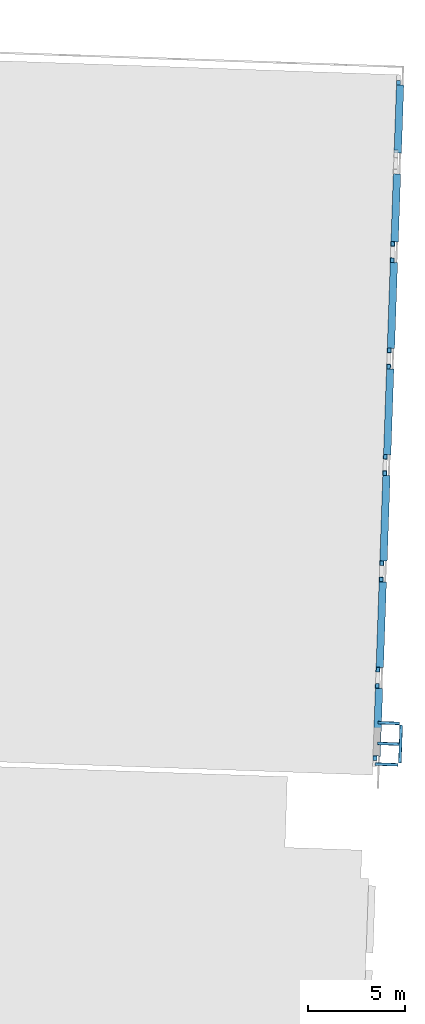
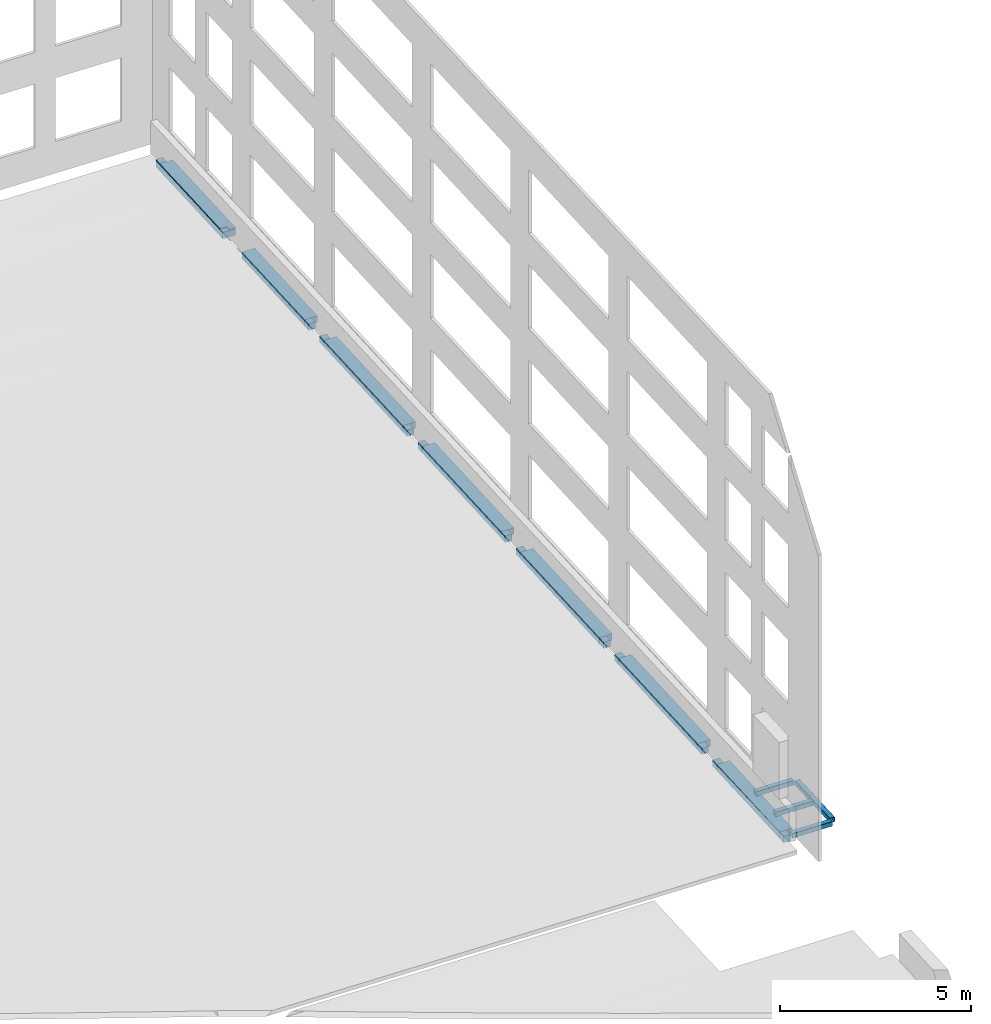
# One storey, part 1 of 7: 20 beams.
"""IFC2X3 building model written with IfcOpenShell, lengths in feet."""

from ifc_helpers import new_model, entity, si_unit, converted_unit, derived_unit, direction, frame, frame_2d, origin, origin_2d_with_axis, place, context, subcontext, project, spatial, polyline, circle_curve, parameter, trimmed, segment, composite_curve, rectangle, outline, extrude, faceted_brep, material, element, save


model = new_model("IFC2X3")

# Units and contexts
model_context = context("Model", 3, precision=0.0001, world=origin(), true_north=direction((0.999390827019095, 0.0348994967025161)))
body_context = subcontext(model_context, "Body", "Model", "MODEL_VIEW")
ifc_project = project(units=[converted_unit("LENGTHUNIT", "FOOT", entity("IfcRatioMeasure", 0.3048), si_unit("LENGTHUNIT", "METRE"), dimensions=[1, 0, 0, 0, 0, 0, 0]), converted_unit("AREAUNIT", "SQUARE FOOT", entity("IfcRatioMeasure", 0.09290304), si_unit("AREAUNIT", "SQUARE_METRE"), dimensions=[2, 0, 0, 0, 0, 0, 0]), converted_unit("VOLUMEUNIT", "CUBIC FOOT", entity("IfcRatioMeasure", 0.028316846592), si_unit("VOLUMEUNIT", "CUBIC_METRE"), dimensions=[3, 0, 0, 0, 0, 0, 0]), converted_unit("PLANEANGLEUNIT", "DEGREE", entity("IfcRatioMeasure", 0.0174532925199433), si_unit("PLANEANGLEUNIT", "RADIAN"), dimensions=[0, 0, 0, 0, 0, 0, 0]), si_unit("MASSUNIT", "GRAM", prefix="KILO"), si_unit("TIMEUNIT", "SECOND"), si_unit("FREQUENCYUNIT", "HERTZ"), si_unit("THERMODYNAMICTEMPERATUREUNIT", "DEGREE_CELSIUS"), derived_unit("THERMALTRANSMITTANCEUNIT", [(si_unit("MASSUNIT", "GRAM", prefix="KILO"), 1), (si_unit("THERMODYNAMICTEMPERATUREUNIT", "KELVIN"), -1), (si_unit("TIMEUNIT", "SECOND"), -3)]), derived_unit("VOLUMETRICFLOWRATEUNIT", [(si_unit("LENGTHUNIT", "METRE"), 3), (si_unit("TIMEUNIT", "SECOND"), -1)]), si_unit("ELECTRICCURRENTUNIT", "AMPERE"), si_unit("ELECTRICVOLTAGEUNIT", "VOLT"), si_unit("POWERUNIT", "WATT"), si_unit("FORCEUNIT", "NEWTON"), si_unit("ILLUMINANCEUNIT", "LUX"), si_unit("LUMINOUSFLUXUNIT", "LUMEN"), si_unit("LUMINOUSINTENSITYUNIT", "CANDELA"), derived_unit("USERDEFINED", [(si_unit("MASSUNIT", "GRAM", prefix="KILO"), -1), (si_unit("LENGTHUNIT", "METRE"), -2), (si_unit("TIMEUNIT", "SECOND"), 3), (si_unit("LUMINOUSFLUXUNIT", "LUMEN"), 1)]), derived_unit("LINEARVELOCITYUNIT", [(si_unit("LENGTHUNIT", "METRE"), 1), (si_unit("TIMEUNIT", "SECOND"), -1)]), si_unit("PRESSUREUNIT", "PASCAL"), derived_unit("USERDEFINED", [(si_unit("LENGTHUNIT", "METRE"), -2), (si_unit("MASSUNIT", "GRAM", prefix="KILO"), 1), (si_unit("TIMEUNIT", "SECOND"), -2)])], contexts=[model_context])

# Site, building, storey
site_placement = place(None, frame((892.518771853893, 322.38689265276, 0.00393700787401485), z_axis=(0.0, 0.0, 1.0), x_axis=(0.0348994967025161, 0.999390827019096, 0.0)))
site = spatial("IfcSite", under=ifc_project, at=site_placement, Name="Default", CompositionType="ELEMENT")
building_placement = place(site_placement, origin())
building = spatial("IfcBuilding", under=site, at=building_placement, CompositionType="ELEMENT")
storey_placement = place(building_placement, frame((0.0, 0.0, 567.0)))
storey = spatial("IfcBuildingStorey", under=building, at=storey_placement, Name="Existing Garage - 2nd Level", CompositionType="ELEMENT", Elevation=567.0)

# Beams
ifc_material_1 = material(Name="Metal - Steel - ASTM A500 - Grade B - Rectangular and Square")
beam_1_placement = place(storey_placement, frame((113.343963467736, 231.847286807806, 0.666666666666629), z_axis=(0.0, 0.0, 1.0), x_axis=(-1.0, 0.0, 0.0)))
element("IfcBeam", 1, at=beam_1_placement, inside=storey, material=ifc_material_1, Name="05_HSS-Hollow Structural Section:HSS6x6x5/16", ObjectType="05_HSS-Hollow Structural Section:HSS6x6x5/16", context=body_context, shape_type="SweptSolid", body=[
    extrude(outline(composite_curve([segment(trimmed(circle_curve(frame_2d((-0.201500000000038, -0.20150000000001), x_axis=(1.0, 0.0)), 0.0485), [parameter(180.0)], [parameter(270.0)], True, "PARAMETER"), True, "CONTINUOUS"), segment(polyline([(-0.201500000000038, -0.25), (0.201499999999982, -0.25)]), True, "CONTINUOUS"), segment(trimmed(circle_curve(frame_2d((0.201499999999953, -0.20150000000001), x_axis=(1.0, 0.0)), 0.0485), [parameter(270.0)], [parameter(1.52666624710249e-13)], True, "PARAMETER"), True, "CONTINUOUS"), segment(polyline([(0.249999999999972, -0.20150000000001), (0.249999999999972, 0.20150000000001)]), True, "CONTINUOUS"), segment(trimmed(circle_curve(frame_2d((0.201499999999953, 0.20150000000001), x_axis=(1.0, 0.0)), 0.0485), [parameter(360.0)], [parameter(89.9999999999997)], True, "PARAMETER"), True, "CONTINUOUS"), segment(polyline([(0.201499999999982, 0.25), (-0.201500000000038, 0.25)]), True, "CONTINUOUS"), segment(trimmed(circle_curve(frame_2d((-0.201500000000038, 0.20150000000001), x_axis=(1.0, 0.0)), 0.0485), [parameter(90.0000000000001)], [parameter(180.0)], True, "PARAMETER"), True, "CONTINUOUS"), segment(polyline([(-0.250000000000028, 0.20150000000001), (-0.250000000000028, -0.20150000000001)]), True, "CONTINUOUS")], self_intersect=False), holes=[composite_curve([segment(polyline([(0.201499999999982, -0.225749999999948), (-0.201500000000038, -0.225749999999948)]), True, "CONTINUOUS"), segment(trimmed(circle_curve(frame_2d((-0.201500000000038, -0.20150000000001), x_axis=(1.0, 0.0)), 0.02425), [parameter(180.0)], [parameter(270.0)], True, "PARAMETER"), False, "CONTINUOUS"), segment(polyline([(-0.225750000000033, -0.20150000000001), (-0.225750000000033, 0.20150000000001)]), True, "CONTINUOUS"), segment(trimmed(circle_curve(frame_2d((-0.201500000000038, 0.20150000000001), x_axis=(1.0, 0.0)), 0.02425), [parameter(90.0000000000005)], [parameter(180.0)], True, "PARAMETER"), False, "CONTINUOUS"), segment(polyline([(-0.201500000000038, 0.225750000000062), (0.201499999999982, 0.225750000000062)]), True, "CONTINUOUS"), segment(trimmed(circle_curve(frame_2d((0.201499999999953, 0.20150000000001), x_axis=(1.0, 0.0)), 0.02425), [parameter(0.0)], [parameter(90.0000000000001)], True, "PARAMETER"), False, "CONTINUOUS"), segment(polyline([(0.225749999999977, 0.20150000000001), (0.225749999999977, -0.20150000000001)]), True, "CONTINUOUS"), segment(trimmed(circle_curve(frame_2d((0.201499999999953, -0.20150000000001), x_axis=(1.0, 0.0)), 0.02425), [parameter(270.0)], [parameter(4.07110999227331e-13)], True, "PARAMETER"), False, "CONTINUOUS")], self_intersect=False)]), frame((0.291666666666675, 0.0, -0.25), z_axis=(1.0, 0.0, 0.0), x_axis=(0.0, -1.0, 0.0)), (0.0, 0.0, 1.0), 6.41667039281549),
])
ifc_material_2 = material(Name="Concrete - Cast-in-Place Concrete")
beam_2_placement = place(storey_placement, frame((105.927293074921, 236.097286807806, 0.0)))
element("IfcBeam", 2, at=beam_2_placement, inside=storey, material=ifc_material_2, Name="Concrete-Rectangular Beam:8\" x 8\"w", ObjectType="Concrete-Rectangular Beam:8\" x 8\"w", context=body_context, shape_type="SweptSolid", body=[
    extrude(rectangle(XDim=0.666666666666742, YDim=0.666666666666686, at=origin_2d_with_axis()), frame((1.0, 0.0, -0.333333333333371), z_axis=(1.0, 0.0, 0.0), x_axis=(0.0, 0.0, -1.0)), (0.0, 0.0, 1.0), 0.7500000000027),
])
beam_3_placement = place(storey_placement, frame((107.677293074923, 235.80562014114, 0.0)))
element("IfcBeam", 3, at=beam_3_placement, inside=storey, material=ifc_material_2, Name="Concrete-Rectangular Beam:8\" x 15\"w", ObjectType="Concrete-Rectangular Beam:8\" x 15\"w", context=body_context, shape_type="SweptSolid", body=[
    extrude(rectangle(XDim=0.666666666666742, YDim=1.25, at=frame_2d((0.0, 5.6843418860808e-14), x_axis=(1.0, 0.0))), frame((0.0, 0.0, -0.333333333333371), z_axis=(1.0, 0.0, 0.0), x_axis=(0.0, 0.0, -1.0)), (0.0, 0.0, 1.0), 11.4999999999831),
])
beam_4_placement = place(storey_placement, frame((119.177293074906, 236.097286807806, 0.0)))
element("IfcBeam", 4, at=beam_4_placement, inside=storey, material=ifc_material_2, Name="Concrete-Rectangular Beam:8\" x 8\"w", ObjectType="Concrete-Rectangular Beam:8\" x 8\"w", context=body_context, shape_type="SweptSolid", body=[
    extrude(rectangle(XDim=0.666666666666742, YDim=0.666666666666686, at=frame_2d((0.0, 2.8421709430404e-14), x_axis=(1.0, 0.0))), frame((2.74999999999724, 0.0, -0.333333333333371), z_axis=(1.0, 0.0, 0.0), x_axis=(0.0, 0.0, -1.0)), (0.0, 0.0, 1.0), 0.7500000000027),
    extrude(rectangle(XDim=0.666666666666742, YDim=0.666666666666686, at=frame_2d((-2.8421709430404e-14, 0.0), x_axis=(0.0, 1.0))), frame((0.0, 0.0, -0.333333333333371), z_axis=(1.0, 0.0, 0.0), x_axis=(0.0, -1.0, 0.0)), (0.0, 0.0, 1.0), 0.749999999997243),
])
beam_5_placement = place(storey_placement, frame((122.677293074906, 235.80562014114, 0.0)))
element("IfcBeam", 5, at=beam_5_placement, inside=storey, material=ifc_material_2, Name="Concrete-Rectangular Beam:8\" x 15\"w", ObjectType="Concrete-Rectangular Beam:8\" x 15\"w", context=body_context, shape_type="SweptSolid", body=[
    extrude(rectangle(XDim=0.666666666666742, YDim=1.25, at=frame_2d((0.0, 5.6843418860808e-14), x_axis=(1.0, 0.0))), frame((0.0, 0.0, -0.333333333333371), z_axis=(1.0, 0.0, 0.0), x_axis=(0.0, 0.0, -1.0)), (0.0, 0.0, 1.0), 14.5000000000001),
])
beam_6_placement = place(storey_placement, frame((137.177293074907, 236.097286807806, 0.0)))
element("IfcBeam", 6, at=beam_6_placement, inside=storey, material=ifc_material_2, Name="Concrete-Rectangular Beam:8\" x 8\"w", ObjectType="Concrete-Rectangular Beam:8\" x 8\"w", context=body_context, shape_type="SweptSolid", body=[
    extrude(rectangle(XDim=0.666666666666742, YDim=0.666666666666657, at=frame_2d((0.0, -1.4210854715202e-14), x_axis=(1.0, 0.0))), frame((2.7499999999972, 0.0, -0.333333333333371), z_axis=(1.0, 0.0, 0.0), x_axis=(0.0, 0.0, -1.0)), (0.0, 0.0, 1.0), 0.750000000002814),
    extrude(rectangle(XDim=0.666666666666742, YDim=0.666666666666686, at=frame_2d((0.0, 0.0), x_axis=(0.0, 1.0))), frame((0.0, 0.0, -0.333333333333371), z_axis=(1.0, 0.0, 0.0), x_axis=(0.0, -1.0, 0.0)), (0.0, 0.0, 1.0), 0.749999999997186),
])
beam_7_placement = place(storey_placement, frame((140.677293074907, 235.80562014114, 0.0)))
element("IfcBeam", 7, at=beam_7_placement, inside=storey, material=ifc_material_2, Name="Concrete-Rectangular Beam:8\" x 15\"w", ObjectType="Concrete-Rectangular Beam:8\" x 15\"w", context=body_context, shape_type="SweptSolid", body=[
    extrude(rectangle(XDim=0.666666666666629, YDim=1.25, at=frame_2d((0.0, 7.105427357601e-14), x_axis=(1.0, 0.0))), frame((0.0, 0.0, -0.333333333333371), z_axis=(1.0, 0.0, 0.0), x_axis=(0.0, 0.0, -1.0)), (0.0, 0.0, 1.0), 14.5),
])
beam_8_placement = place(storey_placement, frame((154.510626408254, 236.097286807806, 0.0)))
element("IfcBeam", 8, at=beam_8_placement, inside=storey, material=ifc_material_2, Name="Concrete-Rectangular Beam:8\" x 8\"w", ObjectType="Concrete-Rectangular Beam:8\" x 8\"w", context=body_context, shape_type="SweptSolid", body=[
    extrude(rectangle(XDim=0.666666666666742, YDim=0.666666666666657, at=frame_2d((0.0, 1.4210854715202e-14), x_axis=(1.0, 0.0))), frame((3.41666666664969, 0.0, -0.333333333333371), z_axis=(1.0, 0.0, 0.0), x_axis=(0.0, 0.0, -1.0)), (0.0, 0.0, 1.0), 0.750000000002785),
    extrude(rectangle(XDim=0.666666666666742, YDim=0.666666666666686, at=frame_2d((0.0, -2.8421709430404e-14), x_axis=(1.0, 0.0))), frame((0.666666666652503, 0.0, -0.333333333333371), z_axis=(1.0, 0.0, 0.0), x_axis=(0.0, 0.0, -1.0)), (0.0, 0.0, 1.0), 0.749999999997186),
])
beam_9_placement = place(storey_placement, frame((158.677293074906, 235.805620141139, 0.0)))
element("IfcBeam", 9, at=beam_9_placement, inside=storey, material=ifc_material_2, Name="Concrete-Rectangular Beam:8\" x 15\"w", ObjectType="Concrete-Rectangular Beam:8\" x 15\"w", context=body_context, shape_type="SweptSolid", body=[
    extrude(rectangle(XDim=0.666666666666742, YDim=1.25000000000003, at=frame_2d((0.0, 4.2632564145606e-14), x_axis=(1.0, 0.0))), frame((0.0, 0.0, -0.333333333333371), z_axis=(1.0, 0.0, 0.0), x_axis=(0.0, 0.0, -1.0)), (0.0, 0.0, 1.0), 14.5),
])
beam_10_placement = place(storey_placement, frame((173.177293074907, 236.097286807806, 0.0)))
element("IfcBeam", 10, at=beam_10_placement, inside=storey, material=ifc_material_2, Name="Concrete-Rectangular Beam:8\" x 8\"w", ObjectType="Concrete-Rectangular Beam:8\" x 8\"w", context=body_context, shape_type="SweptSolid", body=[
    extrude(rectangle(XDim=0.666666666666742, YDim=0.666666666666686, at=origin_2d_with_axis()), frame((2.74999999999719, 0.0, -0.333333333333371), z_axis=(1.0, 0.0, 0.0), x_axis=(0.0, 0.0, -1.0)), (0.0, 0.0, 1.0), 0.750000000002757),
    extrude(rectangle(XDim=0.666666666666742, YDim=0.666666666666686, at=frame_2d((0.0, 0.0), x_axis=(0.0, 1.0))), frame((0.0, 0.0, -0.333333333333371), z_axis=(1.0, 0.0, 0.0), x_axis=(0.0, -1.0, 0.0)), (0.0, 0.0, 1.0), 0.749999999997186),
])
beam_11_placement = place(storey_placement, frame((176.677293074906, 235.805620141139, 0.0)))
element("IfcBeam", 11, at=beam_11_placement, inside=storey, material=ifc_material_2, Name="Concrete-Rectangular Beam:8\" x 15\"w", ObjectType="Concrete-Rectangular Beam:8\" x 15\"w", context=body_context, shape_type="SweptSolid", body=[
    extrude(rectangle(XDim=0.666666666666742, YDim=1.25000000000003, at=frame_2d((0.0, 7.105427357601e-14), x_axis=(1.0, 0.0))), frame((0.0, 0.0, -0.333333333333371), z_axis=(1.0, 0.0, 0.0), x_axis=(0.0, 0.0, -1.0)), (0.0, 0.0, 1.0), 14.5),
])
beam_12_placement = place(storey_placement, frame((191.177293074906, 236.097286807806, 0.0)))
element("IfcBeam", 12, at=beam_12_placement, inside=storey, material=ifc_material_2, Name="Concrete-Rectangular Beam:8\" x 8\"w", ObjectType="Concrete-Rectangular Beam:8\" x 8\"w", context=body_context, shape_type="SweptSolid", body=[
    extrude(rectangle(XDim=0.666666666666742, YDim=0.666666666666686, at=origin_2d_with_axis()), frame((2.7499999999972, 0.0, -0.333333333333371), z_axis=(1.0, 0.0, 0.0), x_axis=(0.0, 0.0, -1.0)), (0.0, 0.0, 1.0), 0.750000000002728),
    extrude(rectangle(XDim=0.666666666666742, YDim=0.666666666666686, at=frame_2d((0.0, 0.0), x_axis=(0.0, 1.0))), frame((0.0, 0.0, -0.333333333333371), z_axis=(1.0, 0.0, 0.0), x_axis=(0.0, -1.0, 0.0)), (0.0, 0.0, 1.0), 0.749999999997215),
])
beam_13_placement = place(storey_placement, frame((194.677293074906, 235.805620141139, 0.0)))
element("IfcBeam", 13, at=beam_13_placement, inside=storey, material=ifc_material_2, Name="Concrete-Rectangular Beam:8\" x 15\"w", ObjectType="Concrete-Rectangular Beam:8\" x 15\"w", context=body_context, shape_type="SweptSolid", body=[
    extrude(rectangle(XDim=0.666666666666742, YDim=1.25, at=frame_2d((0.0, 2.8421709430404e-14), x_axis=(1.0, 0.0))), frame((0.0, 0.0, -0.333333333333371), z_axis=(1.0, 0.0, 0.0), x_axis=(0.0, 0.0, -1.0)), (0.0, 0.0, 1.0), 11.4999999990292),
])
beam_14_placement = place(storey_placement, frame((209.677293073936, 235.805620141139, -0.125)))
element("IfcBeam", 14, at=beam_14_placement, inside=storey, material=ifc_material_2, Name="Concrete-Rectangular Beam:8\" x 15\"w", ObjectType="Concrete-Rectangular Beam:8\" x 15\"w", context=body_context, shape_type="SweptSolid", body=[
    extrude(rectangle(XDim=0.666666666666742, YDim=1.25000000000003, at=frame_2d((0.0, 4.2632564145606e-14), x_axis=(1.0, 0.0))), frame((0.0, 0.0, -0.333333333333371), z_axis=(1.0, 0.0, 0.0), x_axis=(0.0, 0.0, -1.0)), (0.0, 0.0, 1.0), 11.4999999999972),
])
beam_15_placement = place(storey_placement, frame((221.177293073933, 236.097286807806, -0.125)))
element("IfcBeam", 15, at=beam_15_placement, inside=storey, material=ifc_material_2, Name="Concrete-Rectangular Beam:8\" x 8\"w", ObjectType="Concrete-Rectangular Beam:8\" x 8\"w", context=body_context, shape_type="SweptSolid", body=[
    extrude(rectangle(XDim=0.666666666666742, YDim=0.666666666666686, at=origin_2d_with_axis()), frame((0.0, 0.0, -0.333333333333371), z_axis=(1.0, 0.0, 0.0), x_axis=(0.0, 0.0, -1.0)), (0.0, 0.0, 1.0), 0.750000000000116),
])
beam_16_placement = place(storey_placement, frame((209.677293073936, 235.180620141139, -0.125)))
element("IfcBeam", 16, at=beam_16_placement, inside=storey, material=ifc_material_2, Name="Concrete-Rectangular Beam:8\" x 15\"w", ObjectType="Concrete-Rectangular Beam:8\" x 15\"w", context=body_context, shape_type="Brep", body=[
    faceted_brep([(0.0, 0.0, 0.125), (0.0, 0.583333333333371, 0.125), (0.0, 0.5833333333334, 0.0), (0.0, 0.0, 0.0), (11.4999999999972, 0.0, 0.125), (11.4999999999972, 0.583333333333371, 0.125), (11.4999999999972, 1.25000000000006, 0.125), (0.500000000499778, 1.25000000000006, 0.125), (0.50000000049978, 0.583333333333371, 0.125), (11.4999999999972, 0.0, 0.0), (11.4999999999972, 1.25000000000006, 0.0), (0.500000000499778, 1.25000000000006, 0.0), (0.50000000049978, 0.583333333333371, 0.0), (11.4999999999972, 0.583333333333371, 0.0)], [[[0, 1, 2, 3]], [[0, 4, 5, 6, 7, 8, 1]], [[4, 0, 3, 9]], [[7, 6, 10, 11]], [[8, 7, 11, 12]], [[1, 8, 12, 2]], [[3, 2, 12, 11, 10, 13, 9]], [[6, 5, 4, 9, 13, 10]]]),
])
beam_17_placement = place(storey_placement, frame((221.177293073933, 236.097286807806, 0.0)))
element("IfcBeam", 17, at=beam_17_placement, inside=storey, material=ifc_material_2, Name="Concrete-Rectangular Beam:8\" x 8\"w", ObjectType="Concrete-Rectangular Beam:8\" x 8\"w", context=body_context, shape_type="SweptSolid", body=[
    extrude(rectangle(XDim=0.125, YDim=0.666666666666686, at=frame_2d((0.0, 1.4210854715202e-14), x_axis=(1.0, 0.0))), frame((0.0, 0.0, -0.0625), z_axis=(1.0, 0.0, 0.0), x_axis=(0.0, 0.0, -1.0)), (0.0, 0.0, 1.0), 0.750000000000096),
])
beam_18_placement = place(storey_placement, frame((106.343959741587, 231.847286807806, 0.666666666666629), z_axis=(0.0, 0.0, 1.0), x_axis=(0.0, 1.0, 0.0)))
element("IfcBeam", 18, at=beam_18_placement, inside=storey, material=ifc_material_1, Name="05_HSS-Hollow Structural Section:HSS6x6x5/16", ObjectType="05_HSS-Hollow Structural Section:HSS6x6x5/16", context=body_context, shape_type="SweptSolid", body=[
    extrude(outline(composite_curve([segment(trimmed(circle_curve(frame_2d((-0.20150000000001, -0.20150000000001), x_axis=(1.0, 0.0)), 0.0485), [parameter(180.0)], [parameter(270.0)], True, "PARAMETER"), True, "CONTINUOUS"), segment(polyline([(-0.20150000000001, -0.25), (0.201499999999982, -0.25)]), True, "CONTINUOUS"), segment(trimmed(circle_curve(frame_2d((0.201499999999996, -0.20150000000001), x_axis=(1.0, 0.0)), 0.0485), [parameter(270.0)], [parameter(1.52666624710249e-13)], True, "PARAMETER"), True, "CONTINUOUS"), segment(polyline([(0.249999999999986, -0.20150000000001), (0.249999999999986, 0.20150000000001)]), True, "CONTINUOUS"), segment(trimmed(circle_curve(frame_2d((0.201499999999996, 0.20150000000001), x_axis=(1.0, 0.0)), 0.0485), [parameter(360.0)], [parameter(89.9999999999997)], True, "PARAMETER"), True, "CONTINUOUS"), segment(polyline([(0.201499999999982, 0.25), (-0.20150000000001, 0.25)]), True, "CONTINUOUS"), segment(trimmed(circle_curve(frame_2d((-0.20150000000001, 0.20150000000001), x_axis=(1.0, 0.0)), 0.0485), [parameter(90.0000000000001)], [parameter(180.0)], True, "PARAMETER"), True, "CONTINUOUS"), segment(polyline([(-0.250000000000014, 0.20150000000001), (-0.250000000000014, -0.20150000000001)]), True, "CONTINUOUS")], self_intersect=False), holes=[composite_curve([segment(polyline([(0.201499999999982, -0.225749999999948), (-0.20150000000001, -0.225749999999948)]), True, "CONTINUOUS"), segment(trimmed(circle_curve(frame_2d((-0.20150000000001, -0.20150000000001), x_axis=(1.0, 0.0)), 0.02425), [parameter(180.0)], [parameter(270.0)], True, "PARAMETER"), False, "CONTINUOUS"), segment(polyline([(-0.225750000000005, -0.20150000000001), (-0.225750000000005, 0.20150000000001)]), True, "CONTINUOUS"), segment(trimmed(circle_curve(frame_2d((-0.20150000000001, 0.20150000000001), x_axis=(1.0, 0.0)), 0.02425), [parameter(90.0000000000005)], [parameter(180.0)], True, "PARAMETER"), False, "CONTINUOUS"), segment(polyline([(-0.20150000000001, 0.225750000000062), (0.201499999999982, 0.225750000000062)]), True, "CONTINUOUS"), segment(trimmed(circle_curve(frame_2d((0.201499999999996, 0.20150000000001), x_axis=(1.0, 0.0)), 0.02425), [parameter(0.0)], [parameter(90.0000000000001)], True, "PARAMETER"), False, "CONTINUOUS"), segment(polyline([(0.225749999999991, 0.20150000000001), (0.225749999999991, -0.20150000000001)]), True, "CONTINUOUS"), segment(trimmed(circle_curve(frame_2d((0.201499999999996, -0.20150000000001), x_axis=(1.0, 0.0)), 0.02425), [parameter(270.0)], [parameter(4.07110999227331e-13)], True, "PARAMETER"), False, "CONTINUOUS")], self_intersect=False)]), frame((0.291666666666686, 0.0, -0.25), z_axis=(1.0, 0.0, 0.0), x_axis=(0.0, -1.0, 0.0)), (0.0, 0.0, 1.0), 3.86771738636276),
])
beam_19_placement = place(storey_placement, frame((113.343963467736, 231.847286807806, 0.666666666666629), z_axis=(0.0, 0.0, 1.0), x_axis=(0.0, 1.0, 0.0)))
element("IfcBeam", 19, at=beam_19_placement, inside=storey, material=ifc_material_1, Name="05_HSS-Hollow Structural Section:HSS6x6x5/16", ObjectType="05_HSS-Hollow Structural Section:HSS6x6x5/16", context=body_context, shape_type="SweptSolid", body=[
    extrude(outline(composite_curve([segment(trimmed(circle_curve(frame_2d((-0.201499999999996, -0.20150000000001), x_axis=(1.0, 0.0)), 0.0485), [parameter(180.0)], [parameter(270.0)], True, "PARAMETER"), True, "CONTINUOUS"), segment(polyline([(-0.201499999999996, -0.25), (0.201499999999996, -0.25)]), True, "CONTINUOUS"), segment(trimmed(circle_curve(frame_2d((0.20150000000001, -0.20150000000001), x_axis=(1.0, 0.0)), 0.0485), [parameter(270.0)], [parameter(1.52666624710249e-13)], True, "PARAMETER"), True, "CONTINUOUS"), segment(polyline([(0.25, -0.20150000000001), (0.25, 0.20150000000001)]), True, "CONTINUOUS"), segment(trimmed(circle_curve(frame_2d((0.20150000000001, 0.20150000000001), x_axis=(1.0, 0.0)), 0.0485), [parameter(360.0)], [parameter(89.9999999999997)], True, "PARAMETER"), True, "CONTINUOUS"), segment(polyline([(0.201499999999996, 0.25), (-0.201499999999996, 0.25)]), True, "CONTINUOUS"), segment(trimmed(circle_curve(frame_2d((-0.201499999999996, 0.20150000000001), x_axis=(1.0, 0.0)), 0.0485), [parameter(90.0000000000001)], [parameter(180.0)], True, "PARAMETER"), True, "CONTINUOUS"), segment(polyline([(-0.25, 0.20150000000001), (-0.25, -0.20150000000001)]), True, "CONTINUOUS")], self_intersect=False), holes=[composite_curve([segment(polyline([(0.201499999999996, -0.225749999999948), (-0.201499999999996, -0.225749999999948)]), True, "CONTINUOUS"), segment(trimmed(circle_curve(frame_2d((-0.201499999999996, -0.20150000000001), x_axis=(1.0, 0.0)), 0.02425), [parameter(180.0)], [parameter(270.0)], True, "PARAMETER"), False, "CONTINUOUS"), segment(polyline([(-0.225749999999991, -0.20150000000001), (-0.225749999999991, 0.20150000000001)]), True, "CONTINUOUS"), segment(trimmed(circle_curve(frame_2d((-0.201499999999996, 0.20150000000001), x_axis=(1.0, 0.0)), 0.02425), [parameter(90.0000000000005)], [parameter(180.0)], True, "PARAMETER"), False, "CONTINUOUS"), segment(polyline([(-0.201499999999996, 0.225750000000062), (0.201499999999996, 0.225750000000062)]), True, "CONTINUOUS"), segment(trimmed(circle_curve(frame_2d((0.20150000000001, 0.20150000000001), x_axis=(1.0, 0.0)), 0.02425), [parameter(0.0)], [parameter(90.0000000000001)], True, "PARAMETER"), False, "CONTINUOUS"), segment(polyline([(0.225750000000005, 0.20150000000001), (0.225750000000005, -0.20150000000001)]), True, "CONTINUOUS"), segment(trimmed(circle_curve(frame_2d((0.20150000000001, -0.20150000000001), x_axis=(1.0, 0.0)), 0.02425), [parameter(270.0)], [parameter(4.07110999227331e-13)], True, "PARAMETER"), False, "CONTINUOUS")], self_intersect=False)]), frame((0.291666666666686, 0.0, -0.25), z_axis=(1.0, 0.0, 0.0), x_axis=(0.0, -1.0, 0.0)), (0.0, 0.0, 1.0), 3.61954250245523),
])
beam_20_placement = place(storey_placement, frame((109.843961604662, 231.847286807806, 0.666666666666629), z_axis=(0.0, 0.0, 1.0), x_axis=(0.0, 1.0, 0.0)))
element("IfcBeam", 20, at=beam_20_placement, inside=storey, material=ifc_material_1, Name="05_HSS-Hollow Structural Section:HSS6x6x5/16", ObjectType="05_HSS-Hollow Structural Section:HSS6x6x5/16", context=body_context, shape_type="SweptSolid", body=[
    extrude(outline(composite_curve([segment(trimmed(circle_curve(frame_2d((-0.201499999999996, -0.20150000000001), x_axis=(1.0, 0.0)), 0.0485), [parameter(180.0)], [parameter(270.0)], True, "PARAMETER"), True, "CONTINUOUS"), segment(polyline([(-0.201499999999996, -0.25), (0.201499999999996, -0.25)]), True, "CONTINUOUS"), segment(trimmed(circle_curve(frame_2d((0.20150000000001, -0.20150000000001), x_axis=(1.0, 0.0)), 0.0485), [parameter(270.0)], [parameter(1.52666624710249e-13)], True, "PARAMETER"), True, "CONTINUOUS"), segment(polyline([(0.25, -0.20150000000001), (0.25, 0.20150000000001)]), True, "CONTINUOUS"), segment(trimmed(circle_curve(frame_2d((0.20150000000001, 0.20150000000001), x_axis=(1.0, 0.0)), 0.0485), [parameter(360.0)], [parameter(89.9999999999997)], True, "PARAMETER"), True, "CONTINUOUS"), segment(polyline([(0.201499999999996, 0.25), (-0.201499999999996, 0.25)]), True, "CONTINUOUS"), segment(trimmed(circle_curve(frame_2d((-0.201499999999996, 0.20150000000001), x_axis=(1.0, 0.0)), 0.0485), [parameter(90.0000000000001)], [parameter(180.0)], True, "PARAMETER"), True, "CONTINUOUS"), segment(polyline([(-0.25, 0.20150000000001), (-0.25, -0.20150000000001)]), True, "CONTINUOUS")], self_intersect=False), holes=[composite_curve([segment(polyline([(0.201499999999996, -0.225749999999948), (-0.201499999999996, -0.225749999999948)]), True, "CONTINUOUS"), segment(trimmed(circle_curve(frame_2d((-0.201499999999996, -0.20150000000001), x_axis=(1.0, 0.0)), 0.02425), [parameter(180.0)], [parameter(270.0)], True, "PARAMETER"), False, "CONTINUOUS"), segment(polyline([(-0.225749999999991, -0.20150000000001), (-0.225749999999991, 0.20150000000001)]), True, "CONTINUOUS"), segment(trimmed(circle_curve(frame_2d((-0.201499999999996, 0.20150000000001), x_axis=(1.0, 0.0)), 0.02425), [parameter(90.0000000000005)], [parameter(180.0)], True, "PARAMETER"), False, "CONTINUOUS"), segment(polyline([(-0.201499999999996, 0.225750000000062), (0.201499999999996, 0.225750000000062)]), True, "CONTINUOUS"), segment(trimmed(circle_curve(frame_2d((0.20150000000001, 0.20150000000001), x_axis=(1.0, 0.0)), 0.02425), [parameter(0.0)], [parameter(90.0000000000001)], True, "PARAMETER"), False, "CONTINUOUS"), segment(polyline([(0.225750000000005, 0.20150000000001), (0.225750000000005, -0.20150000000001)]), True, "CONTINUOUS"), segment(trimmed(circle_curve(frame_2d((0.20150000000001, -0.20150000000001), x_axis=(1.0, 0.0)), 0.02425), [parameter(270.0)], [parameter(4.07110999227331e-13)], True, "PARAMETER"), False, "CONTINUOUS")], self_intersect=False)]), frame((0.291666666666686, 0.0, -0.25), z_axis=(1.0, 0.0, 0.0), x_axis=(0.0, -1.0, 0.0)), (0.0, 0.0, 1.0), 3.61954250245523),
])

save(model, "model.ifc")
